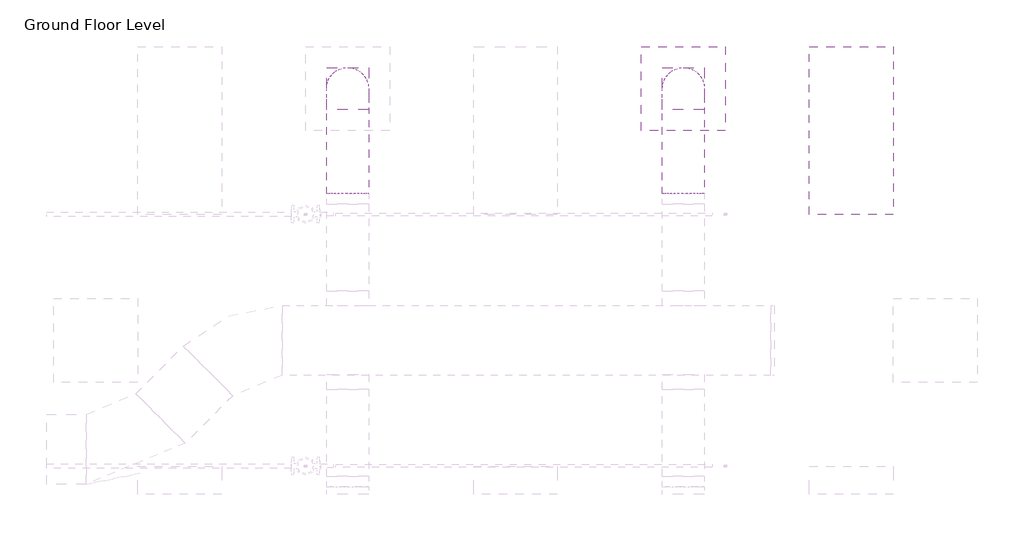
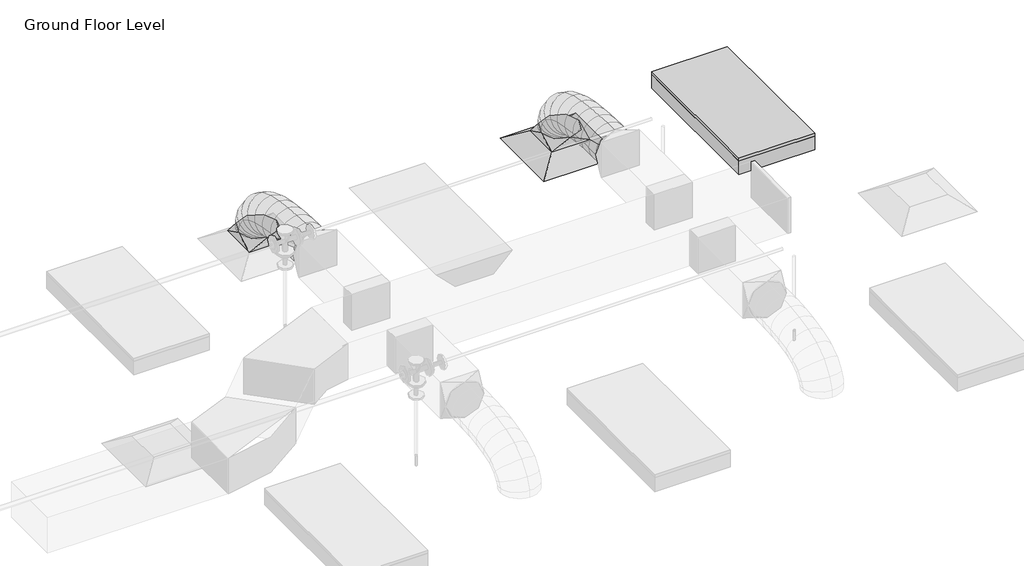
# One storey, part 72 of 72: 2 duct fittings, 2 duct segments, 1 air terminal, 1 light fixture.
"""IFC4 building model written with IfcOpenShell, lengths in millimetres."""

from ifc_helpers import new_model, si_unit, frame, origin, place, context, project, spatial, circle_curve, ellipse_curve, transform, mapped, element, save
from ifc_brep_helpers import plane_surface, cylinder_surface, advanced_brep
from components import m_return_diffuser_600_x_600_face_300_x_300_connection_ff221211, m_rectangular_to_round_transition_angle_45_degree_641efff0, m_troffer_light_parabolic_rectangular1_0600x1200mm_4_lamp_86473d4a

model = new_model("IFC4")

# Units and contexts
model_context = context("Model", 3, world=origin())
ifc_project = project(units=[si_unit("LENGTHUNIT", "METRE", prefix="MILLI")], contexts=[model_context])

# Site, building, storey
site = spatial("IfcSite", under=ifc_project)
building = spatial("IfcBuilding", under=site)
storey = spatial("IfcBuildingStorey", under=building, Name="Ground Floor Level", Elevation=900.0)

# Air terminal
placement = place(None, origin())
m_return_diffuser_600_x_600_face_300_x_300_connection_shape = m_return_diffuser_600_x_600_face_300_x_300_connection_ff221211(model_context)
element("IfcAirTerminal", 1, ObjectType="M_Supply Diffuser : 600 x 600 Face 300 x 300 Connection", at=placement, inside=storey, context=model_context, shape_type="MappedRepresentation", body=[
    mapped(m_return_diffuser_600_x_600_face_300_x_300_connection_shape, transform((13142.7672395, 20535.2153534, 3650.0), x_axis=(1.0, 0.0, 0.0), y_axis=(0.0, 1.0, 0.0), z_axis=(0.0, 0.0, 1.0))),
])

# Duct fittings
m_rectangular_to_round_transition_angle_45_degree_shape = m_rectangular_to_round_transition_angle_45_degree_641efff0(model_context)
element("IfcDuctFitting", 2, ObjectType="M_Rectangular to Round Transition - Angle : 45 Degree", at=placement, inside=storey, context=model_context, shape_type="MappedRepresentation", body=[
    mapped(m_rectangular_to_round_transition_angle_45_degree_shape, transform((10742.7672395, 20535.2153534, 3751.6), x_axis=(0.0, 0.0, 1.0), y_axis=(-1.0, 0.0, 0.0), z_axis=(0.0, -1.0, 0.0))),
])
element("IfcDuctFitting", 3, ObjectType="M_Rectangular to Round Transition - Angle : 45 Degree", at=placement, inside=storey, context=model_context, shape_type="MappedRepresentation", body=[
    mapped(m_rectangular_to_round_transition_angle_45_degree_shape, transform((13142.7672395, 20535.2153534, 3751.6), x_axis=(0.0, 0.0, 1.0), y_axis=(-1.0, 0.0, 0.0), z_axis=(0.0, -1.0, 0.0))),
])

# Duct segments
element("IfcDuctSegment", 4, ObjectType="Flex - Round", at=placement, inside=storey, context=model_context, shape_type="AdvancedBrep", body=[
    advanced_brep(
    [(10892.7672395, 20535.2153534, 3826.6), (10742.7672395, 20385.2153534, 3826.6), (10592.7672395, 20535.2153534, 3826.6), (10742.7672395, 20685.2153534, 3826.6), (10892.7672395, 20535.2153534, 3857.9377114), (10742.7672395, 20385.2153534, 3832.2944892), (10592.7672395, 20535.2153534, 3857.9377114), (10742.7672395, 20685.2153534, 3883.5809337), (10892.7672395, 20518.1994208, 3906.2505728), (10742.7672395, 20384.4614419, 3834.435049), (10592.7672395, 20518.1994208, 3906.2505728), (10742.7672395, 20651.9373998, 3978.0660967), (10892.7672395, 20471.0155405, 3968.7113131), (10742.7672395, 20366.8096412, 3857.8020236), (10592.7672395, 20471.0155405, 3968.7113131), (10742.7672395, 20575.2214397, 4079.6206026), (10892.7672395, 20399.4595883, 4016.0700639), (10742.7672395, 20330.5255327, 3881.8163788), (10592.7672395, 20399.4595883, 4016.0700639), (10742.7672395, 20468.3936439, 4150.3237489), (10892.7672395, 20309.3274403, 4050.4146682), (10742.7672395, 20265.7666771, 3906.4925606), (10592.7672395, 20309.3274403, 4050.4146682), (10742.7672395, 20352.8882035, 4194.3367758), (10892.7672395, 20206.4149725, 4073.8329691), (10742.7672395, 20179.8540485, 3926.0424542), (10592.7672395, 20206.4149725, 4073.8329691), (10742.7672395, 20232.9758965, 4221.6234841), (10892.7672395, 20096.5180607, 4088.4128097), (10742.7672395, 20081.3671584, 3939.1085462), (10592.7672395, 20096.5180607, 4088.4128097), (10742.7672395, 20111.6689631, 4237.7170733), (10892.7672395, 19985.4325811, 4096.242033), (10742.7672395, 19977.9272529, 3946.398915), (10592.7672395, 19985.4325811, 4096.242033), (10742.7672395, 19992.9379093, 4246.085151), (10892.7672395, 19878.9544096, 4099.4084821), (10742.7672395, 19876.2629165, 3949.4222102), (10592.7672395, 19878.9544096, 4099.4084821), (10742.7672395, 19881.6459027, 4249.394754), (10892.7672395, 19782.8794221, 4100.0), (10742.7672395, 19783.8029299, 4249.9971571), (10592.7672395, 19782.8794221, 4100.0), (10742.7672395, 19781.9559143, 3950.0028429)],
    [
        (0, 1, circle_curve(frame((10742.7672395, 20535.2153534, 3826.6), z_axis=(0.0, 0.0, -1.0), x_axis=(1.0, 0.0, 0.0)), 150.0)),
        (1, 2, circle_curve(frame((10742.7672395, 20535.2153534, 3826.6), z_axis=(0.0, 0.0, -1.0), x_axis=(1.0, 0.0, 0.0)), 150.0)),
        (2, 3, circle_curve(frame((10742.7672395, 20535.2153534, 3826.6), z_axis=(0.0, 0.0, -1.0), x_axis=(1.0, 0.0, 0.0)), 150.0)),
        (3, 0, circle_curve(frame((10742.7672395, 20535.2153534, 3826.6), z_axis=(0.0, 0.0, -1.0), x_axis=(1.0, 0.0, 0.0)), 150.0)),
        (0, 4),
        (4, 5, ellipse_curve(frame((10742.7672395, 20535.2153534, 3857.9377114), z_axis=(0.0, 0.16851014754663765, -0.9856999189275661), x_axis=(0.0, -0.985699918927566, -0.1685101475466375)), 152.176131, 150.0)),
        (5, 1),
        (5, 6, ellipse_curve(frame((10742.7672395, 20535.2153534, 3857.9377114), z_axis=(0.0, 0.16851014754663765, -0.9856999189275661), x_axis=(0.0, -0.985699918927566, -0.1685101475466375)), 152.176131, 150.0)),
        (6, 2),
        (6, 7, ellipse_curve(frame((10742.7672395, 20535.2153534, 3857.9377114), z_axis=(0.0, 0.16851014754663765, -0.9856999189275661), x_axis=(0.0, -0.985699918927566, -0.1685101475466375)), 152.176131, 150.0)),
        (7, 3),
        (7, 4, ellipse_curve(frame((10742.7672395, 20535.2153534, 3857.9377114), z_axis=(0.0, 0.16851014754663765, -0.9856999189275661), x_axis=(0.0, -0.985699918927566, -0.1685101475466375)), 152.176131, 150.0)),
        (4, 8),
        (8, 9, ellipse_curve(frame((10742.7672395, 20518.1994208, 3906.2505728), z_axis=(0.0, 0.4730922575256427, -0.881012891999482), x_axis=(0.0, -0.8810128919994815, -0.4730922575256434)), 151.8002519, 150.0)),
        (9, 5),
        (9, 10, ellipse_curve(frame((10742.7672395, 20518.1994208, 3906.2505728), z_axis=(0.0, 0.4730922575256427, -0.881012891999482), x_axis=(0.0, -0.8810128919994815, -0.4730922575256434)), 151.8002519, 150.0)),
        (10, 6),
        (10, 11, ellipse_curve(frame((10742.7672395, 20518.1994208, 3906.2505728), z_axis=(0.0, 0.4730922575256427, -0.881012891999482), x_axis=(0.0, -0.8810128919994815, -0.4730922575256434)), 151.8002519, 150.0)),
        (11, 7),
        (11, 8, ellipse_curve(frame((10742.7672395, 20518.1994208, 3906.2505728), z_axis=(0.0, 0.4730922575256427, -0.881012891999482), x_axis=(0.0, -0.8810128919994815, -0.4730922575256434)), 151.8002519, 150.0)),
        (8, 12),
        (12, 13, ellipse_curve(frame((10742.7672395, 20471.0155405, 3968.7113131), z_axis=(0.0, 0.7287877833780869, -0.68473963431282), x_axis=(0.0, -0.6847396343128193, -0.7287877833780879)), 152.1832446, 150.0)),
        (13, 9),
        (13, 14, ellipse_curve(frame((10742.7672395, 20471.0155405, 3968.7113131), z_axis=(0.0, 0.7287877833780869, -0.68473963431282), x_axis=(0.0, -0.6847396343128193, -0.7287877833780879)), 152.1832446, 150.0)),
        (14, 10),
        (14, 15, ellipse_curve(frame((10742.7672395, 20471.0155405, 3968.7113131), z_axis=(0.0, 0.7287877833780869, -0.68473963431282), x_axis=(0.0, -0.6847396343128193, -0.7287877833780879)), 152.1832446, 150.0)),
        (15, 11),
        (15, 12, ellipse_curve(frame((10742.7672395, 20471.0155405, 3968.7113131), z_axis=(0.0, 0.7287877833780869, -0.68473963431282), x_axis=(0.0, -0.6847396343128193, -0.7287877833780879)), 152.1832446, 150.0)),
        (12, 16),
        (16, 17, ellipse_curve(frame((10742.7672395, 20399.4595883, 4016.0700639), z_axis=(0.0, 0.8895859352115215, -0.45676784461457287), x_axis=(0.0, -0.45676784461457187, -0.889585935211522)), 150.91705, 150.0)),
        (17, 13),
        (17, 18, ellipse_curve(frame((10742.7672395, 20399.4595883, 4016.0700639), z_axis=(0.0, 0.8895859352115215, -0.45676784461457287), x_axis=(0.0, -0.45676784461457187, -0.889585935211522)), 150.91705, 150.0)),
        (18, 14),
        (18, 19, ellipse_curve(frame((10742.7672395, 20399.4595883, 4016.0700639), z_axis=(0.0, 0.8895859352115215, -0.45676784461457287), x_axis=(0.0, -0.45676784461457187, -0.889585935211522)), 150.91705, 150.0)),
        (19, 15),
        (19, 16, ellipse_curve(frame((10742.7672395, 20399.4595883, 4016.0700639), z_axis=(0.0, 0.8895859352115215, -0.45676784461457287), x_axis=(0.0, -0.45676784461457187, -0.889585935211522)), 150.91705, 150.0)),
        (16, 20),
        (20, 21, ellipse_curve(frame((10742.7672395, 20309.3274403, 4050.4146682), z_axis=(0.0, 0.9571203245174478, -0.2896906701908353), x_axis=(0.0, -0.28969067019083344, -0.9571203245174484)), 150.369921, 150.0)),
        (21, 17),
        (21, 22, ellipse_curve(frame((10742.7672395, 20309.3274403, 4050.4146682), z_axis=(0.0, 0.9571203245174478, -0.2896906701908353), x_axis=(0.0, -0.28969067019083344, -0.9571203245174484)), 150.369921, 150.0)),
        (22, 18),
        (22, 23, ellipse_curve(frame((10742.7672395, 20309.3274403, 4050.4146682), z_axis=(0.0, 0.9571203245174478, -0.2896906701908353), x_axis=(0.0, -0.28969067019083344, -0.9571203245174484)), 150.369921, 150.0)),
        (23, 19),
        (23, 20, ellipse_curve(frame((10742.7672395, 20309.3274403, 4050.4146682), z_axis=(0.0, 0.9571203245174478, -0.2896906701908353), x_axis=(0.0, -0.28969067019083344, -0.9571203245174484)), 150.369921, 150.0)),
        (20, 24),
        (24, 25, ellipse_curve(frame((10742.7672395, 20206.4149725, 4073.8329691), z_axis=(0.0, 0.9842313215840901, -0.17688613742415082), x_axis=(0.0, -0.17688613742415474, -0.9842313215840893)), 150.1583131, 150.0)),
        (25, 21),
        (25, 26, ellipse_curve(frame((10742.7672395, 20206.4149725, 4073.8329691), z_axis=(0.0, 0.9842313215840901, -0.17688613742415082), x_axis=(0.0, -0.17688613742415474, -0.9842313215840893)), 150.1583131, 150.0)),
        (26, 22),
        (26, 27, ellipse_curve(frame((10742.7672395, 20206.4149725, 4073.8329691), z_axis=(0.0, 0.9842313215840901, -0.17688613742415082), x_axis=(0.0, -0.17688613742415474, -0.9842313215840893)), 150.1583131, 150.0)),
        (27, 23),
        (27, 24, ellipse_curve(frame((10742.7672395, 20206.4149725, 4073.8329691), z_axis=(0.0, 0.9842313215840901, -0.17688613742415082), x_axis=(0.0, -0.17688613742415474, -0.9842313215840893)), 150.1583131, 150.0)),
        (24, 28),
        (28, 29, ellipse_curve(frame((10742.7672395, 20096.5180607, 4088.4128097), z_axis=(0.0, 0.9948906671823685, -0.10095821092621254), x_axis=(0.0, -0.10095821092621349, -0.9948906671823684)), 150.0710264, 150.0)),
        (29, 25),
        (29, 30, ellipse_curve(frame((10742.7672395, 20096.5180607, 4088.4128097), z_axis=(0.0, 0.9948906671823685, -0.10095821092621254), x_axis=(0.0, -0.10095821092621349, -0.9948906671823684)), 150.0710264, 150.0)),
        (30, 26),
        (30, 31, ellipse_curve(frame((10742.7672395, 20096.5180607, 4088.4128097), z_axis=(0.0, 0.9948906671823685, -0.10095821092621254), x_axis=(0.0, -0.10095821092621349, -0.9948906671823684)), 150.0710264, 150.0)),
        (31, 27),
        (31, 28, ellipse_curve(frame((10742.7672395, 20096.5180607, 4088.4128097), z_axis=(0.0, 0.9948906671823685, -0.10095821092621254), x_axis=(0.0, -0.10095821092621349, -0.9948906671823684)), 150.0710264, 150.0)),
        (28, 32),
        (32, 33, ellipse_curve(frame((10742.7672395, 19985.4325811, 4096.242033), z_axis=(0.0, 0.9987479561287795, -0.05002519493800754), x_axis=(0.0, -0.05002519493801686, -0.9987479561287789)), 150.0309634, 150.0)),
        (33, 29),
        (33, 34, ellipse_curve(frame((10742.7672395, 19985.4325811, 4096.242033), z_axis=(0.0, 0.9987479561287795, -0.05002519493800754), x_axis=(0.0, -0.05002519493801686, -0.9987479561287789)), 150.0309634, 150.0)),
        (34, 30),
        (34, 35, ellipse_curve(frame((10742.7672395, 19985.4325811, 4096.242033), z_axis=(0.0, 0.9987479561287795, -0.05002519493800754), x_axis=(0.0, -0.05002519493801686, -0.9987479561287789)), 150.0309634, 150.0)),
        (35, 31),
        (35, 32, ellipse_curve(frame((10742.7672395, 19985.4325811, 4096.242033), z_axis=(0.0, 0.9987479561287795, -0.05002519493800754), x_axis=(0.0, -0.05002519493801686, -0.9987479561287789)), 150.0309634, 150.0)),
        (32, 36),
        (36, 37, ellipse_curve(frame((10742.7672395, 19878.9544096, 4099.4084821), z_axis=(0.0, 0.9998390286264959, -0.017942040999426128), x_axis=(0.0, -0.017942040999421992, -0.999839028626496)), 150.0104193, 150.0)),
        (37, 33),
        (37, 38, ellipse_curve(frame((10742.7672395, 19878.9544096, 4099.4084821), z_axis=(0.0, 0.9998390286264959, -0.017942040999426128), x_axis=(0.0, -0.017942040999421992, -0.999839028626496)), 150.0104193, 150.0)),
        (38, 34),
        (38, 39, ellipse_curve(frame((10742.7672395, 19878.9544096, 4099.4084821), z_axis=(0.0, 0.9998390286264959, -0.017942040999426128), x_axis=(0.0, -0.017942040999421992, -0.999839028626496)), 150.0104193, 150.0)),
        (39, 35),
        (39, 36, ellipse_curve(frame((10742.7672395, 19878.9544096, 4099.4084821), z_axis=(0.0, 0.9998390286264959, -0.017942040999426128), x_axis=(0.0, -0.017942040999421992, -0.999839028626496)), 150.0104193, 150.0)),
        (40, 41, circle_curve(frame((10742.7672395, 19782.8794221, 4100.0), z_axis=(0.0, -0.9999810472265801, 0.006156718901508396), x_axis=(1.0, 0.0, 0.0)), 150.0)),
        (41, 42, circle_curve(frame((10742.7672395, 19782.8794221, 4100.0), z_axis=(0.0, -0.9999810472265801, 0.006156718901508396), x_axis=(1.0, 0.0, 0.0)), 150.0)),
        (42, 43, circle_curve(frame((10742.7672395, 19782.8794221, 4100.0), z_axis=(0.0, -0.9999810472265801, 0.006156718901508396), x_axis=(1.0, 0.0, 0.0)), 150.0)),
        (43, 40, circle_curve(frame((10742.7672395, 19782.8794221, 4100.0), z_axis=(0.0, -0.9999810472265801, 0.006156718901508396), x_axis=(1.0, 0.0, 0.0)), 150.0)),
        (36, 40),
        (43, 37),
        (42, 38),
        (41, 39),
    ],
    [
        plane_surface(frame((10742.7672395, 20385.2153534, 3826.6), z_axis=(0.0, 0.0, -1.0), x_axis=(1.0, 0.0, 0.0))),
        cylinder_surface(frame((10742.7672395, 20535.2153534, 3826.6), z_axis=(0.0, 0.0, -1.0), x_axis=(1.0, 0.0, 0.0)), 150.0),
        cylinder_surface(frame((10742.7672395, 20535.2153534, 3857.9377114), z_axis=(0.0, 0.33220087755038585, -0.9432086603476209), x_axis=(1.0, 0.0, 0.0)), 150.0),
        cylinder_surface(frame((10742.7672395, 20518.1994208, 3906.2505728), z_axis=(0.0, 0.6027625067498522, -0.7979206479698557), x_axis=(1.0, 0.0, 0.0)), 150.0),
        cylinder_surface(frame((10742.7672395, 20471.0155405, 3968.7113131), z_axis=(0.0, 0.833902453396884, -0.5519118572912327), x_axis=(1.0, 0.0, 0.0)), 150.0),
        cylinder_surface(frame((10742.7672395, 20399.4595883, 4016.0700639), z_axis=(0.0, 0.9344582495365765, -0.3560727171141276), x_axis=(1.0, 0.0, 0.0)), 150.0),
        cylinder_surface(frame((10742.7672395, 20309.3274403, 4050.4146682), z_axis=(0.0, 0.9750732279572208, -0.2218833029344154), x_axis=(1.0, 0.0, 0.0)), 150.0),
        cylinder_surface(frame((10742.7672395, 20206.4149725, 4073.8329691), z_axis=(0.0, 0.991314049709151, -0.13151598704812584), x_axis=(1.0, 0.0, 0.0)), 150.0),
        cylinder_surface(frame((10742.7672395, 20096.5180607, 4088.4128097), z_axis=(0.0, 0.9975255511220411, -0.07030487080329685), x_axis=(1.0, 0.0, 0.0)), 150.0),
        cylinder_surface(frame((10742.7672395, 19985.4325811, 4096.242033), z_axis=(0.0, 0.9995581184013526, -0.02972487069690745), x_axis=(1.0, 0.0, 0.0)), 150.0),
        plane_surface(frame((10742.7672395, 19781.9559143, 3950.0028429), z_axis=(0.0, -0.9999810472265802, 0.006156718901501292), x_axis=(1.0, 0.0, 0.0))),
        cylinder_surface(frame((10742.7672395, 19878.9544096, 4099.4084821), z_axis=(0.0, 0.9999810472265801, -0.006156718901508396), x_axis=(1.0, 0.0, 0.0)), 150.0),
    ],
    [
        (0, [[1, 2, 3, 4]]),
        (1, [[-1, 5, 6, 7]]),
        (1, [[-2, -7, 8, 9]]),
        (1, [[-3, -9, 10, 11]]),
        (1, [[-4, -11, 12, -5]]),
        (2, [[-6, 13, 14, 15]]),
        (2, [[-8, -15, 16, 17]]),
        (2, [[-10, -17, 18, 19]]),
        (2, [[-12, -19, 20, -13]]),
        (3, [[-14, 21, 22, 23]]),
        (3, [[-16, -23, 24, 25]]),
        (3, [[-18, -25, 26, 27]]),
        (3, [[-20, -27, 28, -21]]),
        (4, [[-22, 29, 30, 31]]),
        (4, [[-24, -31, 32, 33]]),
        (4, [[-26, -33, 34, 35]]),
        (4, [[-28, -35, 36, -29]]),
        (5, [[-30, 37, 38, 39]]),
        (5, [[-32, -39, 40, 41]]),
        (5, [[-34, -41, 42, 43]]),
        (5, [[-36, -43, 44, -37]]),
        (6, [[-38, 45, 46, 47]]),
        (6, [[-40, -47, 48, 49]]),
        (6, [[-42, -49, 50, 51]]),
        (6, [[-44, -51, 52, -45]]),
        (7, [[-46, 53, 54, 55]]),
        (7, [[-48, -55, 56, 57]]),
        (7, [[-50, -57, 58, 59]]),
        (7, [[-52, -59, 60, -53]]),
        (8, [[-54, 61, 62, 63]]),
        (8, [[-56, -63, 64, 65]]),
        (8, [[-58, -65, 66, 67]]),
        (8, [[-60, -67, 68, -61]]),
        (9, [[-62, 69, 70, 71]]),
        (9, [[-64, -71, 72, 73]]),
        (9, [[-66, -73, 74, 75]]),
        (9, [[-68, -75, 76, -69]]),
        (10, [[77, 78, 79, 80]]),
        (11, [[-70, 81, -80, 82]]),
        (11, [[-72, -82, -79, 83]]),
        (11, [[-74, -83, -78, 84]]),
        (11, [[-76, -84, -77, -81]]),
    ],
),
])
element("IfcDuctSegment", 5, ObjectType="Flex - Round", at=placement, inside=storey, context=model_context, shape_type="AdvancedBrep", body=[
    advanced_brep(
    [(13292.7672395, 20535.2153534, 3826.6), (13142.7672395, 20385.2153534, 3826.6), (12992.7672395, 20535.2153534, 3826.6), (13142.7672395, 20685.2153534, 3826.6), (13292.7672395, 20535.2153534, 3857.9377114), (13142.7672395, 20385.2153534, 3832.2944892), (12992.7672395, 20535.2153534, 3857.9377114), (13142.7672395, 20685.2153534, 3883.5809337), (13292.7672395, 20518.1994208, 3906.2505728), (13142.7672395, 20384.4614419, 3834.435049), (12992.7672395, 20518.1994208, 3906.2505728), (13142.7672395, 20651.9373998, 3978.0660967), (13292.7672395, 20471.0155405, 3968.7113131), (13142.7672395, 20366.8096412, 3857.8020236), (12992.7672395, 20471.0155405, 3968.7113131), (13142.7672395, 20575.2214397, 4079.6206026), (13292.7672395, 20399.4595883, 4016.0700639), (13142.7672395, 20330.5255327, 3881.8163788), (12992.7672395, 20399.4595883, 4016.0700639), (13142.7672395, 20468.3936439, 4150.3237489), (13292.7672395, 20309.3274403, 4050.4146682), (13142.7672395, 20265.7666771, 3906.4925606), (12992.7672395, 20309.3274403, 4050.4146682), (13142.7672395, 20352.8882035, 4194.3367758), (13292.7672395, 20206.4149725, 4073.8329691), (13142.7672395, 20179.8540485, 3926.0424542), (12992.7672395, 20206.4149725, 4073.8329691), (13142.7672395, 20232.9758965, 4221.6234841), (13292.7672395, 20096.5180607, 4088.4128097), (13142.7672395, 20081.3671584, 3939.1085462), (12992.7672395, 20096.5180607, 4088.4128097), (13142.7672395, 20111.6689631, 4237.7170733), (13292.7672395, 19985.4325811, 4096.242033), (13142.7672395, 19977.9272529, 3946.398915), (12992.7672395, 19985.4325811, 4096.242033), (13142.7672395, 19992.9379093, 4246.085151), (13292.7672395, 19878.9544096, 4099.4084821), (13142.7672395, 19876.2629165, 3949.4222102), (12992.7672395, 19878.9544096, 4099.4084821), (13142.7672395, 19881.6459027, 4249.394754), (13292.7672395, 19782.8794221, 4100.0), (13142.7672395, 19783.8029299, 4249.9971571), (12992.7672395, 19782.8794221, 4100.0), (13142.7672395, 19781.9559143, 3950.0028429)],
    [
        (0, 1, circle_curve(frame((13142.7672395, 20535.2153534, 3826.6), z_axis=(0.0, 0.0, -1.0), x_axis=(1.0, 0.0, 0.0)), 150.0)),
        (1, 2, circle_curve(frame((13142.7672395, 20535.2153534, 3826.6), z_axis=(0.0, 0.0, -1.0), x_axis=(1.0, 0.0, 0.0)), 150.0)),
        (2, 3, circle_curve(frame((13142.7672395, 20535.2153534, 3826.6), z_axis=(0.0, 0.0, -1.0), x_axis=(1.0, 0.0, 0.0)), 150.0)),
        (3, 0, circle_curve(frame((13142.7672395, 20535.2153534, 3826.6), z_axis=(0.0, 0.0, -1.0), x_axis=(1.0, 0.0, 0.0)), 150.0)),
        (0, 4),
        (4, 5, ellipse_curve(frame((13142.7672395, 20535.2153534, 3857.9377114), z_axis=(0.0, 0.16851014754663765, -0.9856999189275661), x_axis=(0.0, -0.985699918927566, -0.1685101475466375)), 152.176131, 150.0)),
        (5, 1),
        (5, 6, ellipse_curve(frame((13142.7672395, 20535.2153534, 3857.9377114), z_axis=(0.0, 0.16851014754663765, -0.9856999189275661), x_axis=(0.0, -0.985699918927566, -0.1685101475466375)), 152.176131, 150.0)),
        (6, 2),
        (6, 7, ellipse_curve(frame((13142.7672395, 20535.2153534, 3857.9377114), z_axis=(0.0, 0.16851014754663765, -0.9856999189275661), x_axis=(0.0, -0.985699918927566, -0.1685101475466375)), 152.176131, 150.0)),
        (7, 3),
        (7, 4, ellipse_curve(frame((13142.7672395, 20535.2153534, 3857.9377114), z_axis=(0.0, 0.16851014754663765, -0.9856999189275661), x_axis=(0.0, -0.985699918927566, -0.1685101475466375)), 152.176131, 150.0)),
        (4, 8),
        (8, 9, ellipse_curve(frame((13142.7672395, 20518.1994208, 3906.2505728), z_axis=(0.0, 0.4730922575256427, -0.881012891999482), x_axis=(0.0, -0.8810128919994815, -0.4730922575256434)), 151.8002519, 150.0)),
        (9, 5),
        (9, 10, ellipse_curve(frame((13142.7672395, 20518.1994208, 3906.2505728), z_axis=(0.0, 0.4730922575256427, -0.881012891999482), x_axis=(0.0, -0.8810128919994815, -0.4730922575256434)), 151.8002519, 150.0)),
        (10, 6),
        (10, 11, ellipse_curve(frame((13142.7672395, 20518.1994208, 3906.2505728), z_axis=(0.0, 0.4730922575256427, -0.881012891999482), x_axis=(0.0, -0.8810128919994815, -0.4730922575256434)), 151.8002519, 150.0)),
        (11, 7),
        (11, 8, ellipse_curve(frame((13142.7672395, 20518.1994208, 3906.2505728), z_axis=(0.0, 0.4730922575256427, -0.881012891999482), x_axis=(0.0, -0.8810128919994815, -0.4730922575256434)), 151.8002519, 150.0)),
        (8, 12),
        (12, 13, ellipse_curve(frame((13142.7672395, 20471.0155405, 3968.7113131), z_axis=(0.0, 0.7287877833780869, -0.68473963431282), x_axis=(0.0, -0.6847396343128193, -0.7287877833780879)), 152.1832446, 150.0)),
        (13, 9),
        (13, 14, ellipse_curve(frame((13142.7672395, 20471.0155405, 3968.7113131), z_axis=(0.0, 0.7287877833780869, -0.68473963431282), x_axis=(0.0, -0.6847396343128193, -0.7287877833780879)), 152.1832446, 150.0)),
        (14, 10),
        (14, 15, ellipse_curve(frame((13142.7672395, 20471.0155405, 3968.7113131), z_axis=(0.0, 0.7287877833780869, -0.68473963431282), x_axis=(0.0, -0.6847396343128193, -0.7287877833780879)), 152.1832446, 150.0)),
        (15, 11),
        (15, 12, ellipse_curve(frame((13142.7672395, 20471.0155405, 3968.7113131), z_axis=(0.0, 0.7287877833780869, -0.68473963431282), x_axis=(0.0, -0.6847396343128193, -0.7287877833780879)), 152.1832446, 150.0)),
        (12, 16),
        (16, 17, ellipse_curve(frame((13142.7672395, 20399.4595883, 4016.0700639), z_axis=(0.0, 0.8895859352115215, -0.45676784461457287), x_axis=(0.0, -0.45676784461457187, -0.889585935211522)), 150.91705, 150.0)),
        (17, 13),
        (17, 18, ellipse_curve(frame((13142.7672395, 20399.4595883, 4016.0700639), z_axis=(0.0, 0.8895859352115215, -0.45676784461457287), x_axis=(0.0, -0.45676784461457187, -0.889585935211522)), 150.91705, 150.0)),
        (18, 14),
        (18, 19, ellipse_curve(frame((13142.7672395, 20399.4595883, 4016.0700639), z_axis=(0.0, 0.8895859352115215, -0.45676784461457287), x_axis=(0.0, -0.45676784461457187, -0.889585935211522)), 150.91705, 150.0)),
        (19, 15),
        (19, 16, ellipse_curve(frame((13142.7672395, 20399.4595883, 4016.0700639), z_axis=(0.0, 0.8895859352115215, -0.45676784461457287), x_axis=(0.0, -0.45676784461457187, -0.889585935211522)), 150.91705, 150.0)),
        (16, 20),
        (20, 21, ellipse_curve(frame((13142.7672395, 20309.3274403, 4050.4146682), z_axis=(0.0, 0.9571203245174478, -0.2896906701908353), x_axis=(0.0, -0.28969067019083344, -0.9571203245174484)), 150.369921, 150.0)),
        (21, 17),
        (21, 22, ellipse_curve(frame((13142.7672395, 20309.3274403, 4050.4146682), z_axis=(0.0, 0.9571203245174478, -0.2896906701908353), x_axis=(0.0, -0.28969067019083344, -0.9571203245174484)), 150.369921, 150.0)),
        (22, 18),
        (22, 23, ellipse_curve(frame((13142.7672395, 20309.3274403, 4050.4146682), z_axis=(0.0, 0.9571203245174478, -0.2896906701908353), x_axis=(0.0, -0.28969067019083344, -0.9571203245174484)), 150.369921, 150.0)),
        (23, 19),
        (23, 20, ellipse_curve(frame((13142.7672395, 20309.3274403, 4050.4146682), z_axis=(0.0, 0.9571203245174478, -0.2896906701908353), x_axis=(0.0, -0.28969067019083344, -0.9571203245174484)), 150.369921, 150.0)),
        (20, 24),
        (24, 25, ellipse_curve(frame((13142.7672395, 20206.4149725, 4073.8329691), z_axis=(0.0, 0.9842313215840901, -0.17688613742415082), x_axis=(0.0, -0.17688613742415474, -0.9842313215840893)), 150.1583131, 150.0)),
        (25, 21),
        (25, 26, ellipse_curve(frame((13142.7672395, 20206.4149725, 4073.8329691), z_axis=(0.0, 0.9842313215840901, -0.17688613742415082), x_axis=(0.0, -0.17688613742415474, -0.9842313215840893)), 150.1583131, 150.0)),
        (26, 22),
        (26, 27, ellipse_curve(frame((13142.7672395, 20206.4149725, 4073.8329691), z_axis=(0.0, 0.9842313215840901, -0.17688613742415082), x_axis=(0.0, -0.17688613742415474, -0.9842313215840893)), 150.1583131, 150.0)),
        (27, 23),
        (27, 24, ellipse_curve(frame((13142.7672395, 20206.4149725, 4073.8329691), z_axis=(0.0, 0.9842313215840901, -0.17688613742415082), x_axis=(0.0, -0.17688613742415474, -0.9842313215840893)), 150.1583131, 150.0)),
        (24, 28),
        (28, 29, ellipse_curve(frame((13142.7672395, 20096.5180607, 4088.4128097), z_axis=(0.0, 0.9948906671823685, -0.10095821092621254), x_axis=(0.0, -0.10095821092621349, -0.9948906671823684)), 150.0710264, 150.0)),
        (29, 25),
        (29, 30, ellipse_curve(frame((13142.7672395, 20096.5180607, 4088.4128097), z_axis=(0.0, 0.9948906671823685, -0.10095821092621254), x_axis=(0.0, -0.10095821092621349, -0.9948906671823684)), 150.0710264, 150.0)),
        (30, 26),
        (30, 31, ellipse_curve(frame((13142.7672395, 20096.5180607, 4088.4128097), z_axis=(0.0, 0.9948906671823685, -0.10095821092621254), x_axis=(0.0, -0.10095821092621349, -0.9948906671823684)), 150.0710264, 150.0)),
        (31, 27),
        (31, 28, ellipse_curve(frame((13142.7672395, 20096.5180607, 4088.4128097), z_axis=(0.0, 0.9948906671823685, -0.10095821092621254), x_axis=(0.0, -0.10095821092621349, -0.9948906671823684)), 150.0710264, 150.0)),
        (28, 32),
        (32, 33, ellipse_curve(frame((13142.7672395, 19985.4325811, 4096.242033), z_axis=(0.0, 0.9987479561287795, -0.05002519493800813), x_axis=(0.0, -0.05002519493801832, -0.9987479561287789)), 150.0309634, 150.0)),
        (33, 29),
        (33, 34, ellipse_curve(frame((13142.7672395, 19985.4325811, 4096.242033), z_axis=(0.0, 0.9987479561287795, -0.05002519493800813), x_axis=(0.0, -0.05002519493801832, -0.9987479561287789)), 150.0309634, 150.0)),
        (34, 30),
        (34, 35, ellipse_curve(frame((13142.7672395, 19985.4325811, 4096.242033), z_axis=(0.0, 0.9987479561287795, -0.05002519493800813), x_axis=(0.0, -0.05002519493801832, -0.9987479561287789)), 150.0309634, 150.0)),
        (35, 31),
        (35, 32, ellipse_curve(frame((13142.7672395, 19985.4325811, 4096.242033), z_axis=(0.0, 0.9987479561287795, -0.05002519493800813), x_axis=(0.0, -0.05002519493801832, -0.9987479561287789)), 150.0309634, 150.0)),
        (32, 36),
        (36, 37, ellipse_curve(frame((13142.7672395, 19878.9544096, 4099.4084821), z_axis=(0.0, 0.9998390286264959, -0.01794204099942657), x_axis=(0.0, -0.01794204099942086, -0.999839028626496)), 150.0104193, 150.0)),
        (37, 33),
        (37, 38, ellipse_curve(frame((13142.7672395, 19878.9544096, 4099.4084821), z_axis=(0.0, 0.9998390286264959, -0.01794204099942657), x_axis=(0.0, -0.01794204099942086, -0.999839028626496)), 150.0104193, 150.0)),
        (38, 34),
        (38, 39, ellipse_curve(frame((13142.7672395, 19878.9544096, 4099.4084821), z_axis=(0.0, 0.9998390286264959, -0.01794204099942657), x_axis=(0.0, -0.01794204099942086, -0.999839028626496)), 150.0104193, 150.0)),
        (39, 35),
        (39, 36, ellipse_curve(frame((13142.7672395, 19878.9544096, 4099.4084821), z_axis=(0.0, 0.9998390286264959, -0.01794204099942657), x_axis=(0.0, -0.01794204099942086, -0.999839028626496)), 150.0104193, 150.0)),
        (40, 41, circle_curve(frame((13142.7672395, 19782.8794221, 4100.0), z_axis=(0.0, -0.9999810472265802, 0.006156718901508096), x_axis=(1.0, 0.0, 0.0)), 150.0)),
        (41, 42, circle_curve(frame((13142.7672395, 19782.8794221, 4100.0), z_axis=(0.0, -0.9999810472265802, 0.006156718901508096), x_axis=(1.0, 0.0, 0.0)), 150.0)),
        (42, 43, circle_curve(frame((13142.7672395, 19782.8794221, 4100.0), z_axis=(0.0, -0.9999810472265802, 0.006156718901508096), x_axis=(1.0, 0.0, 0.0)), 150.0)),
        (43, 40, circle_curve(frame((13142.7672395, 19782.8794221, 4100.0), z_axis=(0.0, -0.9999810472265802, 0.006156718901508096), x_axis=(1.0, 0.0, 0.0)), 150.0)),
        (36, 40),
        (43, 37),
        (42, 38),
        (41, 39),
    ],
    [
        plane_surface(frame((13142.7672395, 20385.2153534, 3826.6), z_axis=(0.0, 0.0, -1.0), x_axis=(1.0, 0.0, 0.0))),
        cylinder_surface(frame((13142.7672395, 20535.2153534, 3826.6), z_axis=(0.0, 0.0, -1.0), x_axis=(1.0, 0.0, 0.0)), 150.0),
        cylinder_surface(frame((13142.7672395, 20535.2153534, 3857.9377114), z_axis=(0.0, 0.33220087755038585, -0.9432086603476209), x_axis=(1.0, 0.0, 0.0)), 150.0),
        cylinder_surface(frame((13142.7672395, 20518.1994208, 3906.2505728), z_axis=(0.0, 0.6027625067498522, -0.7979206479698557), x_axis=(1.0, 0.0, 0.0)), 150.0),
        cylinder_surface(frame((13142.7672395, 20471.0155405, 3968.7113131), z_axis=(0.0, 0.833902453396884, -0.5519118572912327), x_axis=(1.0, 0.0, 0.0)), 150.0),
        cylinder_surface(frame((13142.7672395, 20399.4595883, 4016.0700639), z_axis=(0.0, 0.9344582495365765, -0.3560727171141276), x_axis=(1.0, 0.0, 0.0)), 150.0),
        cylinder_surface(frame((13142.7672395, 20309.3274403, 4050.4146682), z_axis=(0.0, 0.9750732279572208, -0.2218833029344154), x_axis=(1.0, 0.0, 0.0)), 150.0),
        cylinder_surface(frame((13142.7672395, 20206.4149725, 4073.8329691), z_axis=(0.0, 0.991314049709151, -0.13151598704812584), x_axis=(1.0, 0.0, 0.0)), 150.0),
        cylinder_surface(frame((13142.7672395, 20096.5180607, 4088.4128097), z_axis=(0.0, 0.9975255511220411, -0.07030487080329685), x_axis=(1.0, 0.0, 0.0)), 150.0),
        cylinder_surface(frame((13142.7672395, 19985.4325811, 4096.242033), z_axis=(0.0, 0.9995581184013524, -0.02972487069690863), x_axis=(1.0, 0.0, 0.0)), 150.0),
        plane_surface(frame((13142.7672395, 19781.9559143, 3950.0028429), z_axis=(0.0, -0.9999810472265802, 0.006156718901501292), x_axis=(1.0, 0.0, 0.0))),
        cylinder_surface(frame((13142.7672395, 19878.9544096, 4099.4084821), z_axis=(0.0, 0.9999810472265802, -0.006156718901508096), x_axis=(1.0, 0.0, 0.0)), 150.0),
    ],
    [
        (0, [[1, 2, 3, 4]]),
        (1, [[-1, 5, 6, 7]]),
        (1, [[-2, -7, 8, 9]]),
        (1, [[-3, -9, 10, 11]]),
        (1, [[-4, -11, 12, -5]]),
        (2, [[-6, 13, 14, 15]]),
        (2, [[-8, -15, 16, 17]]),
        (2, [[-10, -17, 18, 19]]),
        (2, [[-12, -19, 20, -13]]),
        (3, [[-14, 21, 22, 23]]),
        (3, [[-16, -23, 24, 25]]),
        (3, [[-18, -25, 26, 27]]),
        (3, [[-20, -27, 28, -21]]),
        (4, [[-22, 29, 30, 31]]),
        (4, [[-24, -31, 32, 33]]),
        (4, [[-26, -33, 34, 35]]),
        (4, [[-28, -35, 36, -29]]),
        (5, [[-30, 37, 38, 39]]),
        (5, [[-32, -39, 40, 41]]),
        (5, [[-34, -41, 42, 43]]),
        (5, [[-36, -43, 44, -37]]),
        (6, [[-38, 45, 46, 47]]),
        (6, [[-40, -47, 48, 49]]),
        (6, [[-42, -49, 50, 51]]),
        (6, [[-44, -51, 52, -45]]),
        (7, [[-46, 53, 54, 55]]),
        (7, [[-48, -55, 56, 57]]),
        (7, [[-50, -57, 58, 59]]),
        (7, [[-52, -59, 60, -53]]),
        (8, [[-54, 61, 62, 63]]),
        (8, [[-56, -63, 64, 65]]),
        (8, [[-58, -65, 66, 67]]),
        (8, [[-60, -67, 68, -61]]),
        (9, [[-62, 69, 70, 71]]),
        (9, [[-64, -71, 72, 73]]),
        (9, [[-66, -73, 74, 75]]),
        (9, [[-68, -75, 76, -69]]),
        (10, [[77, 78, 79, 80]]),
        (11, [[-70, 81, -80, 82]]),
        (11, [[-72, -82, -79, 83]]),
        (11, [[-74, -83, -78, 84]]),
        (11, [[-76, -84, -77, -81]]),
    ],
),
])

# Light fixture
m_troffer_light_parabolic_rectangular1_0600x1200mm_4_lamp_shape = m_troffer_light_parabolic_rectangular1_0600x1200mm_4_lamp_86473d4a(model_context)
element("IfcLightFixture", 6, ObjectType="M_Troffer Light - Parabolic Rectangular1 : 0600x1200mm(4 Lamp) - 277V 2", at=placement, inside=storey, context=model_context, shape_type="MappedRepresentation", body=[
    mapped(m_troffer_light_parabolic_rectangular1_0600x1200mm_4_lamp_shape, transform((14283.3013074, 20253.918855, 3650.0), x_axis=(0.0, 1.0, 0.0), y_axis=(-1.0, 0.0, 0.0), z_axis=(0.0, 0.0, 1.0))),
])

save(model, "model.ifc")
